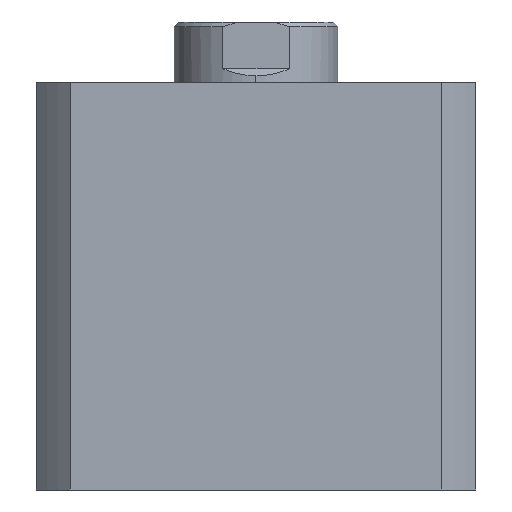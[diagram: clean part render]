
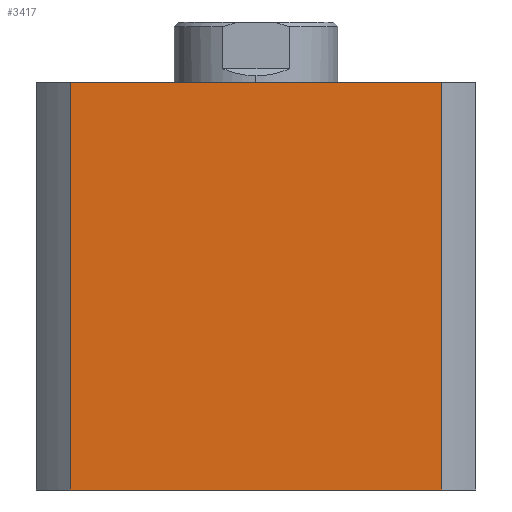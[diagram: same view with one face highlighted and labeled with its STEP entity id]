
A CAD part, left-side view. The second image highlights one B-rep face of the part: STEP entity #3417.
In plain terms, the highlighted planar face has unit normal (-1, 0, 0).
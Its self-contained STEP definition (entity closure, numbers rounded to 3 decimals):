
#204 = ORIENTED_EDGE ( 'NONE', *, *, #4971, .F. ) ;
#262 = ORIENTED_EDGE ( 'NONE', *, *, #4972, .T. ) ;
#277 = VERTEX_POINT ( 'NONE', #2172 ) ;
#278 = VERTEX_POINT ( 'NONE', #2174 ) ;
#1148 = DIRECTION ( 'NONE',  ( 0., 0., -1. ) ) ;
#1151 = CARTESIAN_POINT ( 'NONE',  ( -47., 39.664, 87. ) ) ;
#1152 = CARTESIAN_POINT ( 'NONE',  ( -47., -39.664, 87. ) ) ;
#1156 = CARTESIAN_POINT ( 'NONE',  ( -47., 0., 0. ) ) ;
#1158 = DIRECTION ( 'NONE',  ( 0., -1., 0. ) ) ;
#1159 = DIRECTION ( 'NONE',  ( 0., 0., -1. ) ) ;
#1470 = LINE ( 'NONE', #3722, #1474 ) ;
#1474 = VECTOR ( 'NONE', #3728, 1000. ) ;
#2006 = EDGE_LOOP ( 'NONE', ( #262, #204, #2342, #2343 ) ) ;
#2156 = VERTEX_POINT ( 'NONE', #3396 ) ;
#2157 = VERTEX_POINT ( 'NONE', #3397 ) ;
#2172 = CARTESIAN_POINT ( 'NONE',  ( -47., -39.664, 87. ) ) ;
#2174 = CARTESIAN_POINT ( 'NONE',  ( -47., 39.664, 87. ) ) ;
#2342 = ORIENTED_EDGE ( 'NONE', *, *, #3800, .F. ) ;
#2343 = ORIENTED_EDGE ( 'NONE', *, *, #4973, .T. ) ;
#2420 = FACE_OUTER_BOUND ( 'NONE', #2006, .T. ) ;
#2786 = LINE ( 'NONE', #1152, #2792 ) ;
#2790 = LINE ( 'NONE', #1151, #2796 ) ;
#2791 = LINE ( 'NONE', #1156, #2794 ) ;
#2792 = VECTOR ( 'NONE', #1148, 1000. ) ;
#2794 = VECTOR ( 'NONE', #1158, 1000. ) ;
#2796 = VECTOR ( 'NONE', #1159, 1000. ) ;
#3221 = CARTESIAN_POINT ( 'NONE',  ( -47., 0., 87. ) ) ;
#3226 = PLANE ( 'NONE',  #4905 ) ;
#3229 = DIRECTION ( 'NONE',  ( 1., 0., 0. ) ) ;
#3230 = DIRECTION ( 'NONE',  ( 0., 0., -1. ) ) ;
#3396 = CARTESIAN_POINT ( 'NONE',  ( -47., -39.664, 0. ) ) ;
#3397 = CARTESIAN_POINT ( 'NONE',  ( -47., 39.664, 0. ) ) ;
#3417 = ADVANCED_FACE ( 'NONE', ( #2420 ), #3226, .F. ) ;
#3722 = CARTESIAN_POINT ( 'NONE',  ( -47., 0., 87. ) ) ;
#3728 = DIRECTION ( 'NONE',  ( 0., -1., 0. ) ) ;
#3800 = EDGE_CURVE ( 'NONE', #278, #277, #1470, .T. ) ;
#4905 = AXIS2_PLACEMENT_3D ( 'NONE', #3221, #3229, #3230 ) ;
#4971 = EDGE_CURVE ( 'NONE', #277, #2156, #2786, .T. ) ;
#4972 = EDGE_CURVE ( 'NONE', #2157, #2156, #2791, .T. ) ;
#4973 = EDGE_CURVE ( 'NONE', #278, #2157, #2790, .T. ) ;
